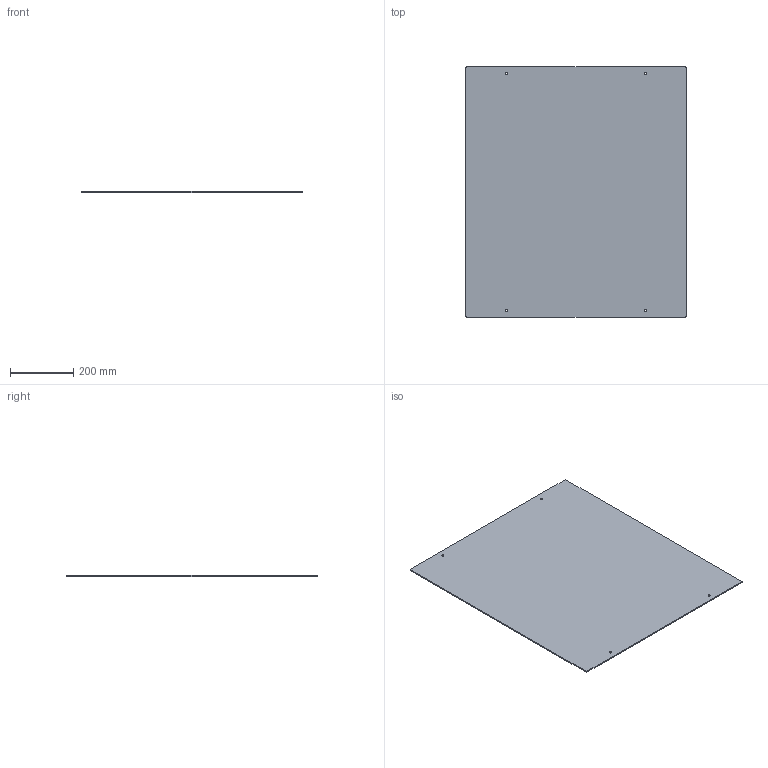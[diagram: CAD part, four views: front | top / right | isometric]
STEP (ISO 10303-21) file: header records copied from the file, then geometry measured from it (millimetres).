
FILE_DESCRIPTION(/* description */ (''),/* implementation_level */ '2;1');
FILE_NAME(/* name */ 'Side Module Rear Panel.step',/* time_stamp */ '2026-05-13T16:53:07-07:00',/* author */ (''),/* organization */ (''),/* preprocessor_version */ 'ST-DEVELOPER v20.1',/* originating_system */ 'Autodesk Translation Framework v15.8.0.0',/* authorisation */ '');
FILE_SCHEMA (('AUTOMOTIVE_DESIGN { 1 0 10303 214 3 1 1 }'));
Length unit declared in the file: millimetre
Products named in the file (1): Side Module Rear Panel
Bounding box: 696 x 790 x 3.67 mm (x, y, z)
Volume: 2017335.2 mm3; surface area: 1110582.7 mm2
Topology: 1 solids, 1 shells, 14 faces, 36 edges, 24 vertices
Faces by surface type: cylinder 8, plane 6
Full cylindrical faces by diameter (mm): 7 x4
Entity records: 485 total; most frequent: DIRECTION 82, CARTESIAN_POINT 75, ORIENTED_EDGE 72, EDGE_CURVE 36, AXIS2_PLACEMENT_3D 31, VERTEX_POINT 24, EDGE_LOOP 22, LINE 20
